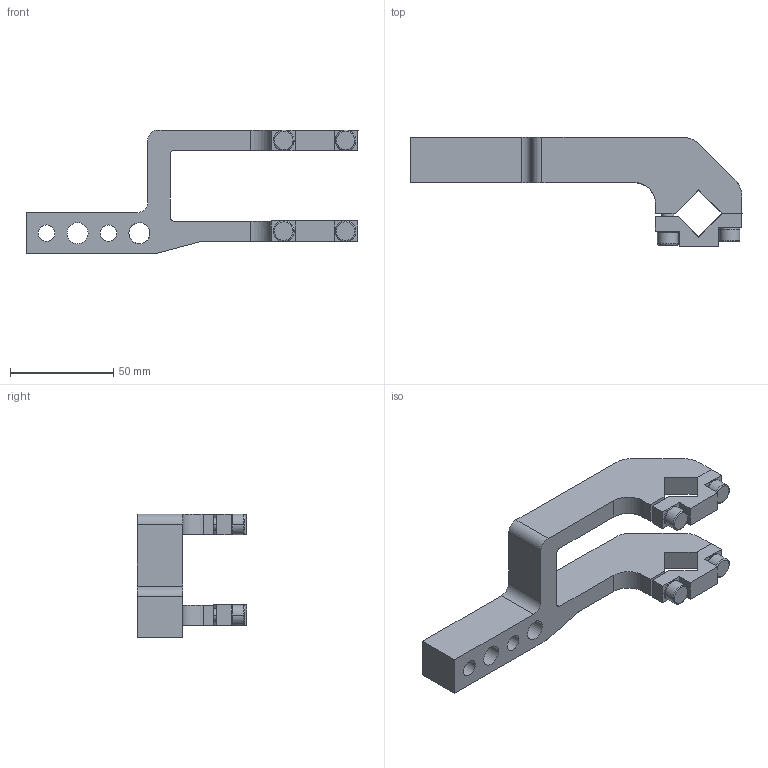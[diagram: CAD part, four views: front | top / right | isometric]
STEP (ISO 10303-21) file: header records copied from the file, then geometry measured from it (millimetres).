
FILE_DESCRIPTION(('CATIA V5 STEP Exchange'),'2;1');
FILE_NAME('E:\clampact\CLAMPACT\clampact\3D\Clampact Arm-3D\Clampact Arm-3D\K40-15-A91-S_Clampact.stp','2024-06-11T09:03:44+00:00',('none'),('none'),'CATIA Version 5 Release 19 SP 6 (IN-10)','CATIA V5 STEP AP203','none');
FILE_SCHEMA(('CONFIG_CONTROL_DESIGN'));
Length unit declared in the file: millimetre
Products named in the file (1): K40-15-A91-S_Clampact
Bounding box: 161 x 53 x 60 mm (x, y, z)
Volume: 87297.4 mm3; surface area: 28907.9 mm2
Topology: 1 solids, 5 shells, 161 faces, 410 edges, 259 vertices
Faces by surface type: plane 76, cylinder 48, cone 23, torus 14
Entity records: 5049 total; most frequent: CARTESIAN_POINT 1442, ORIENTED_EDGE 804, DIRECTION 580, EDGE_CURVE 402, VERTEX_POINT 259, VECTOR 236, LINE 236, AXIS2_PLACEMENT_3D 233
